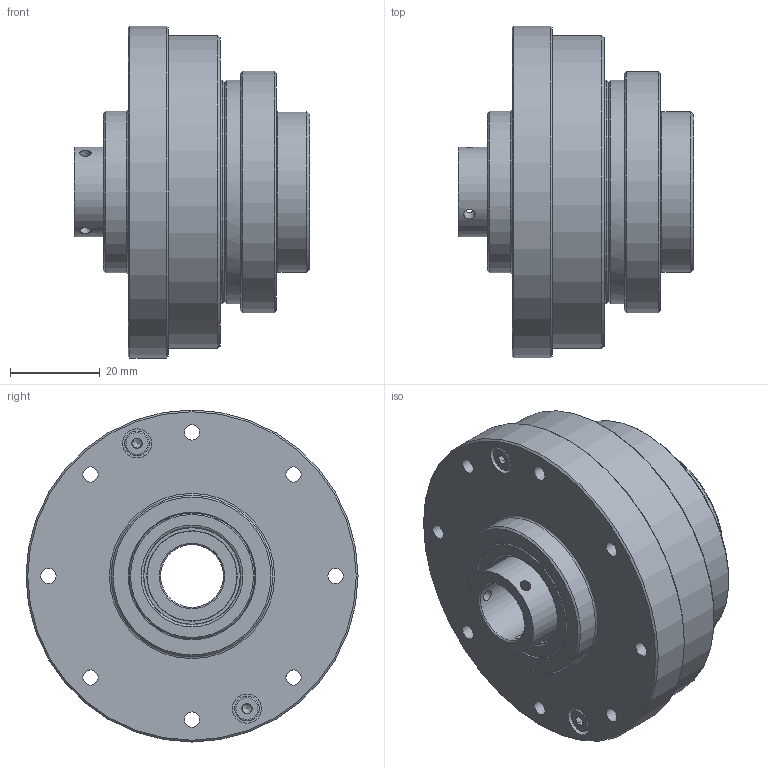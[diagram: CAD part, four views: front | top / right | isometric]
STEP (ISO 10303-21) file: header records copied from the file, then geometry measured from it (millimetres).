
FILE_DESCRIPTION(/* description */ (''),/* implementation_level */ '2;1');
FILE_NAME(/* name */ 'Hollowshaft-Unit-BG-35.stp',/* time_stamp */ '2024-10-11T11:02:38+02:00',/* author */ (''),/* organization */ (''),/* preprocessor_version */ 'ST-DEVELOPER v19.4',/* originating_system */ 'SIEMENS PLM Software NX2212.9120',/* authorisation */ '');
FILE_SCHEMA (('AUTOMOTIVE_DESIGN { 1 0 10303 214 3 1 1 1 }'));
Length unit declared in the file: millimetre
Products named in the file (1): Hollowshaft-Unit-BG-35_stp_objects
Bounding box: 52.5 x 74 x 74 mm (x, y, z)
Volume: 94634.6 mm3; surface area: 100296.3 mm2
Topology: 93 solids, 122 shells, 1371 faces, 3485 edges, 2209 vertices
Faces by surface type: cylinder 456, cone 367, plane 287, torus 117, sphere 98, bspline 46
Full cylindrical faces by diameter (mm): 1.25 x1, 1.6 x1, 1.8 x1, 2.5 x17, 3 x7, 3.2 x1, 3.4 x34, 3.5 x18, 5.5 x6, 6.5 x6, 14 x1, 19.28 x2, 20 x4, 21.648 x2, 22 x5, 23 x2, 23.71 x2, 24.102 x2, 25.155 x2, 25.24 x1, 25.3 x4, 26.7 x4, 26.8 x4, 27.01 x1, 27.5 x1, 27.6 x4, 28 x4, 28.222 x2, 30.548 x1, 31.048 x2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
Entity records: 43463 total; most frequent: CARTESIAN_POINT 13000, DIRECTION 5388, ORIENTED_EDGE 5260, EDGE_CURVE 2630, AXIS2_PLACEMENT_3D 2560, VERTEX_POINT 1984, EDGE_LOOP 1946, ADVANCED_FACE 1371
